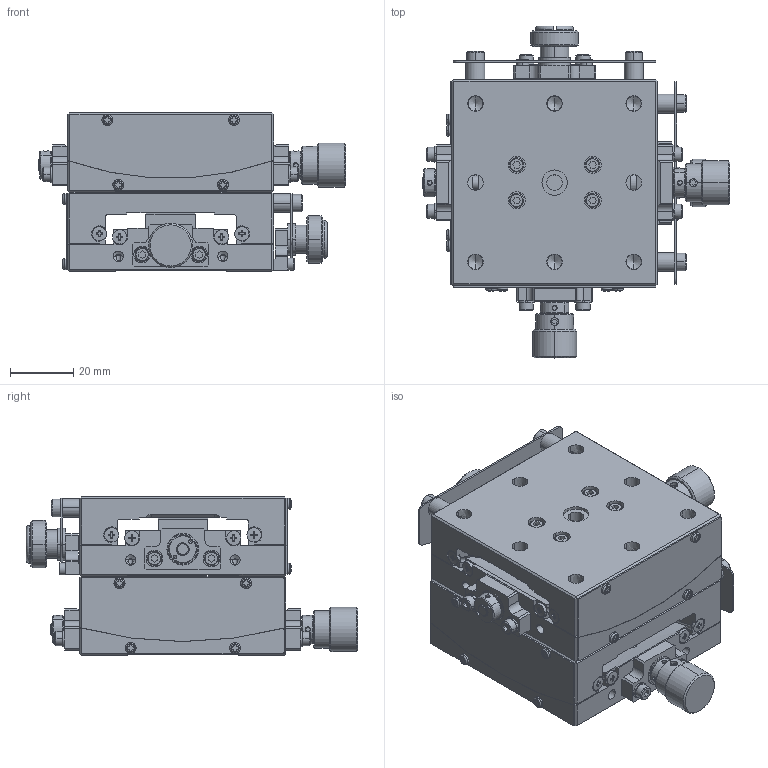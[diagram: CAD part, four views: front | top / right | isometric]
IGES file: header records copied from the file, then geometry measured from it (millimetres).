
Global section: file name: No Iges File Name specified; native system: AutoDesk Inventor R12.0; preprocessor: AutoDesk Inventor Iges Exporter R12.0; date: 20140408.152735; units: millimetre
Bounding box: 97.1 x 104.8 x 50 mm (x, y, z)
Volume: 175980.3 mm3; surface area: 81409 mm2
Topology: 3 solids, 92 shells, 2926 faces, 7261 edges, 4557 vertices
Faces by surface type: plane 1222, bspline 782, cylinder 416, cone 232, revolution 190, torus 52, sphere 32
